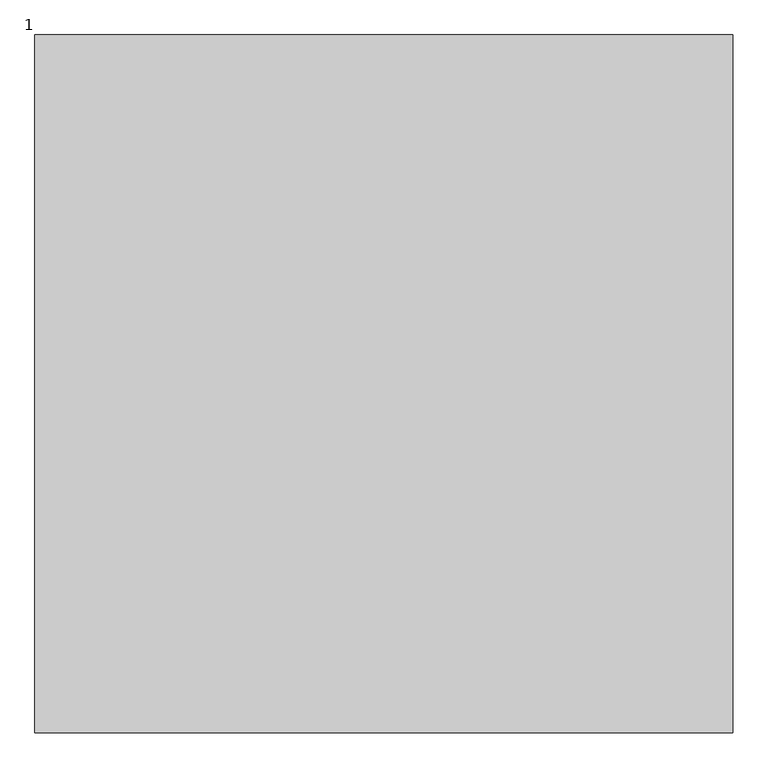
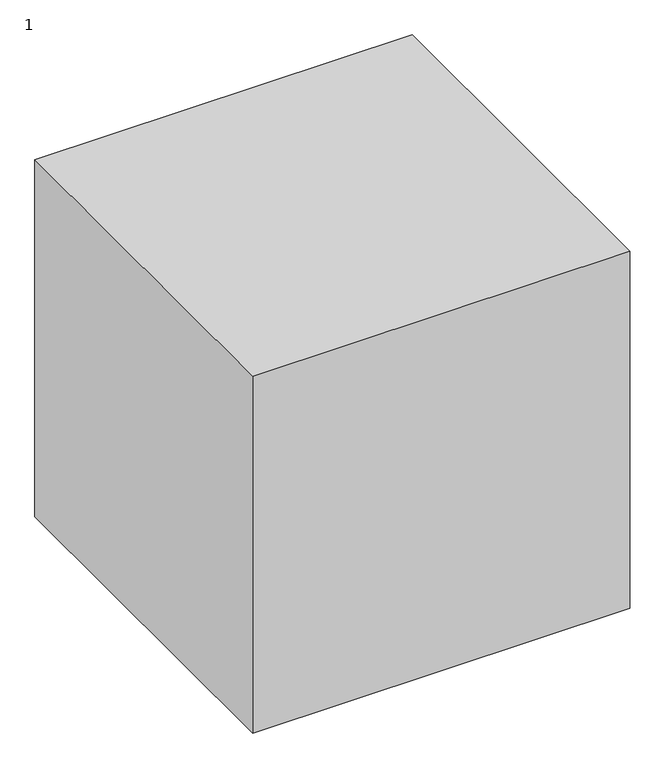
"""IFC4 building model written with IfcOpenShell, lengths in millimetres: proxy geometry, 122111111 : 1."""

from ifc_helpers import new_model, si_unit, origin, origin_with_axes, place, context, project, spatial, polyline, outline, extrude, source, transform, mapped, element, save


def proxy_1_c3146b91(model_context):
    return source(origin(), model_context, "Body", "SweptSolid", [
        extrude(outline(polyline([(9692.0243292, 15335.2294472), (9692.0243292, 14335.2294472), (8692.0243292, 14335.2294472), (8692.0243292, 15335.2294472), (9692.0243292, 15335.2294472)])), origin_with_axes(), (0.0, 0.0, 1.0), 1000.0),
    ])


if __name__ == "__main__":
    model = new_model("IFC4")
    model_context = context("Model", 3, world=origin())
    ifc_project = project(units=[si_unit("LENGTHUNIT", "METRE", prefix="MILLI")], contexts=[model_context])
    site = spatial("IfcSite", under=ifc_project)
    building = spatial("IfcBuilding", under=site)
    placement = place(None, origin())
    proxy_1_shape = proxy_1_c3146b91(model_context)
    element("IfcBuildingElementProxy", 1, Name="122111111 : 1", ObjectType="122111111 : 1", at=placement, inside=building, context=model_context, shape_type="MappedRepresentation", body=[
        mapped(proxy_1_shape, transform((0.0, 0.0, 0.0), x_axis=(1.0, 0.0, 0.0), y_axis=(0.0, 1.0, 0.0), z_axis=(0.0, 0.0, 1.0))),
    ])
    save(model, "model.ifc")
